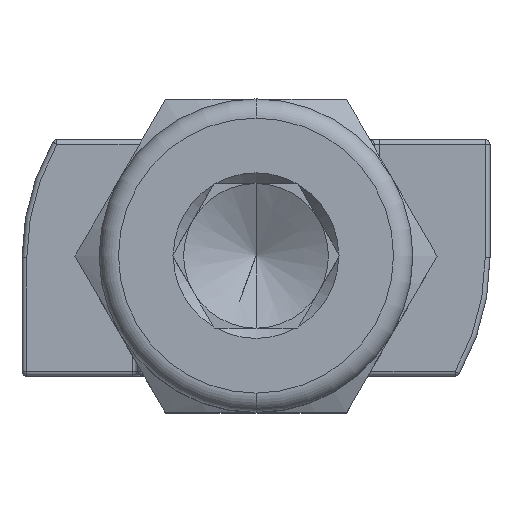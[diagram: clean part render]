
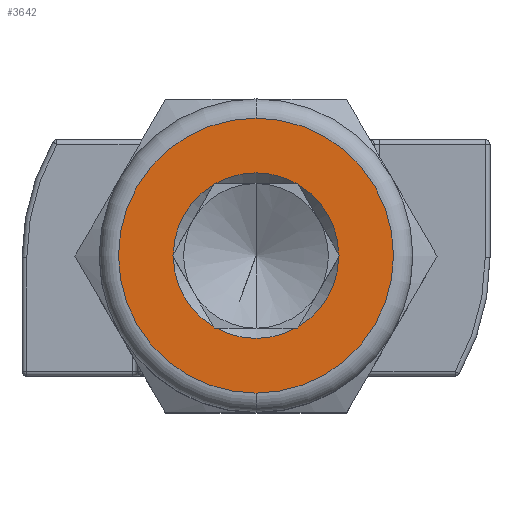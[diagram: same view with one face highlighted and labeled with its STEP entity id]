
A CAD part, top view. The second image highlights one B-rep face of the part: STEP entity #3642.
In plain terms, the highlighted planar face has unit normal (0, 0, 1) as drawn and (-1, 0, 0) by its records, which use the part's own axes.
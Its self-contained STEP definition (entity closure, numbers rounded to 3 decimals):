
#3009=CARTESIAN_POINT('',(-8.,0.,0.));
#3010=DIRECTION('',(1.,0.,0.));
#3011=DIRECTION('',(0.,0.,-1.));
#3012=AXIS2_PLACEMENT_3D('',#3009,#3010,#3011);
#3014=CARTESIAN_POINT('',(-8.,0.,0.));
#3015=DIRECTION('',(-1.,0.,0.));
#3016=DIRECTION('',(0.,0.,-1.));
#3017=AXIS2_PLACEMENT_3D('',#3014,#3015,#3016);
#3019=DIRECTION('',(0.,-1.,0.));
#3020=VECTOR('',#3019,0.069);
#3021=CARTESIAN_POINT('',(-8.,1.732,3.));
#3022=LINE('',#3021,#3020);
#3023=DIRECTION('',(0.,-0.5,0.866));
#3024=VECTOR('',#3023,0.069);
#3025=CARTESIAN_POINT('',(-8.,1.767,2.94));
#3026=LINE('',#3025,#3024);
#3027=DIRECTION('',(0.,-0.5,0.866));
#3028=VECTOR('',#3027,0.069);
#3029=CARTESIAN_POINT('',(-8.,3.464,0.));
#3030=LINE('',#3029,#3028);
#3031=DIRECTION('',(0.,0.5,0.866));
#3032=VECTOR('',#3031,0.069);
#3033=CARTESIAN_POINT('',(-8.,3.429,-0.06));
#3034=LINE('',#3033,#3032);
#3035=DIRECTION('',(0.,0.5,0.866));
#3036=VECTOR('',#3035,0.069);
#3037=CARTESIAN_POINT('',(-8.,1.732,-3.));
#3038=LINE('',#3037,#3036);
#3039=DIRECTION('',(0.,1.,0.));
#3040=VECTOR('',#3039,0.069);
#3041=CARTESIAN_POINT('',(-8.,1.663,-3.));
#3042=LINE('',#3041,#3040);
#3043=DIRECTION('',(0.,1.,0.));
#3044=VECTOR('',#3043,0.069);
#3045=CARTESIAN_POINT('',(-8.,-1.732,-3.));
#3046=LINE('',#3045,#3044);
#3047=DIRECTION('',(0.,0.5,-0.866));
#3048=VECTOR('',#3047,0.069);
#3049=CARTESIAN_POINT('',(-8.,-1.767,-2.94));
#3050=LINE('',#3049,#3048);
#3051=DIRECTION('',(0.,0.5,-0.866));
#3052=VECTOR('',#3051,0.069);
#3053=CARTESIAN_POINT('',(-8.,-3.464,0.));
#3054=LINE('',#3053,#3052);
#3055=DIRECTION('',(0.,-0.5,-0.866));
#3056=VECTOR('',#3055,0.069);
#3057=CARTESIAN_POINT('',(-8.,-3.429,0.06));
#3058=LINE('',#3057,#3056);
#3059=DIRECTION('',(0.,-0.5,-0.866));
#3060=VECTOR('',#3059,0.069);
#3061=CARTESIAN_POINT('',(-8.,-1.732,3.));
#3062=LINE('',#3061,#3060);
#3063=DIRECTION('',(0.,-1.,0.));
#3064=VECTOR('',#3063,0.069);
#3065=CARTESIAN_POINT('',(-8.,-1.663,3.));
#3066=LINE('',#3065,#3064);
#3082=CARTESIAN_POINT('',(-8.,0.,0.));
#3083=DIRECTION('',(1.,0.,0.));
#3084=DIRECTION('',(0.,1.,0.017));
#3085=AXIS2_PLACEMENT_3D('',#3082,#3083,#3084);
#3098=CARTESIAN_POINT('',(-8.,0.,0.));
#3099=DIRECTION('',(1.,0.,0.));
#3100=DIRECTION('',(0.,0.515,-0.857));
#3101=AXIS2_PLACEMENT_3D('',#3098,#3099,#3100);
#3114=CARTESIAN_POINT('',(-8.,0.,0.));
#3115=DIRECTION('',(1.,0.,0.));
#3116=DIRECTION('',(0.,0.485,0.875));
#3117=AXIS2_PLACEMENT_3D('',#3114,#3115,#3116);
#3130=CARTESIAN_POINT('',(-8.,0.,0.));
#3131=DIRECTION('',(-1.,0.,0.));
#3132=DIRECTION('',(0.,-1.,0.017));
#3133=AXIS2_PLACEMENT_3D('',#3130,#3131,#3132);
#3146=CARTESIAN_POINT('',(-8.,0.,0.));
#3147=DIRECTION('',(-1.,0.,0.));
#3148=DIRECTION('',(0.,-0.515,-0.857));
#3149=AXIS2_PLACEMENT_3D('',#3146,#3147,#3148);
#3151=CARTESIAN_POINT('',(-8.,0.,0.));
#3152=DIRECTION('',(1.,0.,0.));
#3153=DIRECTION('',(0.,-0.485,-0.875));
#3154=AXIS2_PLACEMENT_3D('',#3151,#3152,#3153);
#3289=CARTESIAN_POINT('',(-8.,0.,-5.7));
#3290=VERTEX_POINT('',#3289);
#3307=CARTESIAN_POINT('',(-8.,0.,5.7));
#3308=VERTEX_POINT('',#3307);
#3309=CARTESIAN_POINT('',(-8.,1.732,3.));
#3310=CARTESIAN_POINT('',(-8.,1.663,3.));
#3311=VERTEX_POINT('',#3309);
#3312=VERTEX_POINT('',#3310);
#3313=CARTESIAN_POINT('',(-8.,-1.663,3.));
#3314=CARTESIAN_POINT('',(-8.,-1.732,3.));
#3315=VERTEX_POINT('',#3313);
#3316=VERTEX_POINT('',#3314);
#3317=CARTESIAN_POINT('',(-8.,-1.767,2.94));
#3318=VERTEX_POINT('',#3317);
#3319=CARTESIAN_POINT('',(-8.,-3.429,0.06));
#3320=CARTESIAN_POINT('',(-8.,-3.464,0.));
#3321=VERTEX_POINT('',#3319);
#3322=VERTEX_POINT('',#3320);
#3323=CARTESIAN_POINT('',(-8.,-3.429,-0.06));
#3324=VERTEX_POINT('',#3323);
#3325=CARTESIAN_POINT('',(-8.,-1.767,-2.94));
#3326=CARTESIAN_POINT('',(-8.,-1.732,-3.));
#3327=VERTEX_POINT('',#3325);
#3328=VERTEX_POINT('',#3326);
#3329=CARTESIAN_POINT('',(-8.,-1.663,-3.));
#3330=VERTEX_POINT('',#3329);
#3331=CARTESIAN_POINT('',(-8.,1.663,-3.));
#3332=CARTESIAN_POINT('',(-8.,1.732,-3.));
#3333=VERTEX_POINT('',#3331);
#3334=VERTEX_POINT('',#3332);
#3335=CARTESIAN_POINT('',(-8.,1.767,-2.94));
#3336=VERTEX_POINT('',#3335);
#3337=CARTESIAN_POINT('',(-8.,3.429,-0.06));
#3338=CARTESIAN_POINT('',(-8.,3.464,0.));
#3339=VERTEX_POINT('',#3337);
#3340=VERTEX_POINT('',#3338);
#3341=CARTESIAN_POINT('',(-8.,3.429,0.06));
#3342=VERTEX_POINT('',#3341);
#3343=CARTESIAN_POINT('',(-8.,1.767,2.94));
#3344=VERTEX_POINT('',#3343);
#3595=CARTESIAN_POINT('',(-8.,0.,0.));
#3596=DIRECTION('',(-1.,0.,0.));
#3597=DIRECTION('',(0.,0.,-1.));
#3598=AXIS2_PLACEMENT_3D('',#3595,#3596,#3597);
#3599=PLANE('',#3598);
#3600=ORIENTED_EDGE('',*,*,#3577,.T.);
#3601=ORIENTED_EDGE('',*,*,#3588,.F.);
#3602=EDGE_LOOP('',(#3600,#3601));
#3603=FACE_OUTER_BOUND('',#3602,.F.);
#3605=ORIENTED_EDGE('',*,*,#3604,.F.);
#3607=ORIENTED_EDGE('',*,*,#3606,.F.);
#3609=ORIENTED_EDGE('',*,*,#3608,.F.);
#3611=ORIENTED_EDGE('',*,*,#3610,.F.);
#3613=ORIENTED_EDGE('',*,*,#3612,.F.);
#3615=ORIENTED_EDGE('',*,*,#3614,.F.);
#3617=ORIENTED_EDGE('',*,*,#3616,.F.);
#3619=ORIENTED_EDGE('',*,*,#3618,.F.);
#3621=ORIENTED_EDGE('',*,*,#3620,.F.);
#3623=ORIENTED_EDGE('',*,*,#3622,.F.);
#3625=ORIENTED_EDGE('',*,*,#3624,.F.);
#3627=ORIENTED_EDGE('',*,*,#3626,.T.);
#3629=ORIENTED_EDGE('',*,*,#3628,.F.);
#3631=ORIENTED_EDGE('',*,*,#3630,.F.);
#3633=ORIENTED_EDGE('',*,*,#3632,.T.);
#3635=ORIENTED_EDGE('',*,*,#3634,.F.);
#3637=ORIENTED_EDGE('',*,*,#3636,.F.);
#3639=ORIENTED_EDGE('',*,*,#3638,.F.);
#3640=EDGE_LOOP('',(#3605,#3607,#3609,#3611,#3613,#3615,#3617,#3619,#3621,#3623,
#3625,#3627,#3629,#3631,#3633,#3635,#3637,#3639));
#3641=FACE_BOUND('',#3640,.F.);
#3642=ADVANCED_FACE('',(#3603,#3641),#3599,.T.);
#3013=CIRCLE('',#3012,5.7);
#3018=CIRCLE('',#3017,5.7);
#3086=CIRCLE('',#3085,3.43);
#3102=CIRCLE('',#3101,3.43);
#3118=CIRCLE('',#3117,3.43);
#3134=CIRCLE('',#3133,3.43);
#3150=CIRCLE('',#3149,3.43);
#3155=CIRCLE('',#3154,3.43);
#3577=EDGE_CURVE('',#3290,#3308,#3013,.T.);
#3588=EDGE_CURVE('',#3290,#3308,#3018,.T.);
#3604=EDGE_CURVE('',#3311,#3312,#3022,.T.);
#3606=EDGE_CURVE('',#3344,#3311,#3026,.T.);
#3608=EDGE_CURVE('',#3342,#3344,#3086,.T.);
#3610=EDGE_CURVE('',#3340,#3342,#3030,.T.);
#3612=EDGE_CURVE('',#3339,#3340,#3034,.T.);
#3614=EDGE_CURVE('',#3336,#3339,#3102,.T.);
#3616=EDGE_CURVE('',#3334,#3336,#3038,.T.);
#3618=EDGE_CURVE('',#3333,#3334,#3042,.T.);
#3620=EDGE_CURVE('',#3330,#3333,#3155,.T.);
#3622=EDGE_CURVE('',#3328,#3330,#3046,.T.);
#3624=EDGE_CURVE('',#3327,#3328,#3050,.T.);
#3626=EDGE_CURVE('',#3327,#3324,#3150,.T.);
#3628=EDGE_CURVE('',#3322,#3324,#3054,.T.);
#3630=EDGE_CURVE('',#3321,#3322,#3058,.T.);
#3632=EDGE_CURVE('',#3321,#3318,#3134,.T.);
#3634=EDGE_CURVE('',#3316,#3318,#3062,.T.);
#3636=EDGE_CURVE('',#3315,#3316,#3066,.T.);
#3638=EDGE_CURVE('',#3312,#3315,#3118,.T.);
